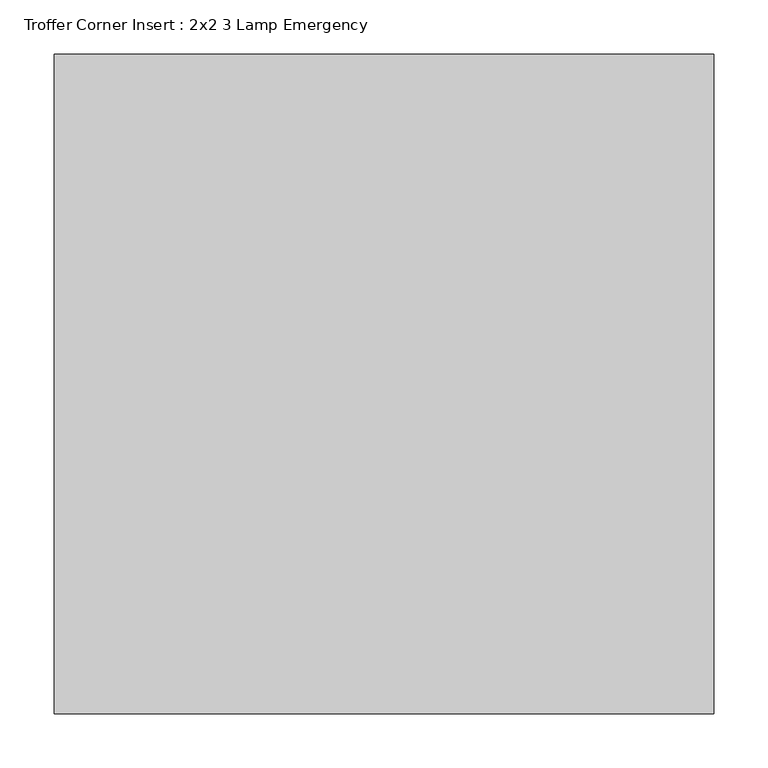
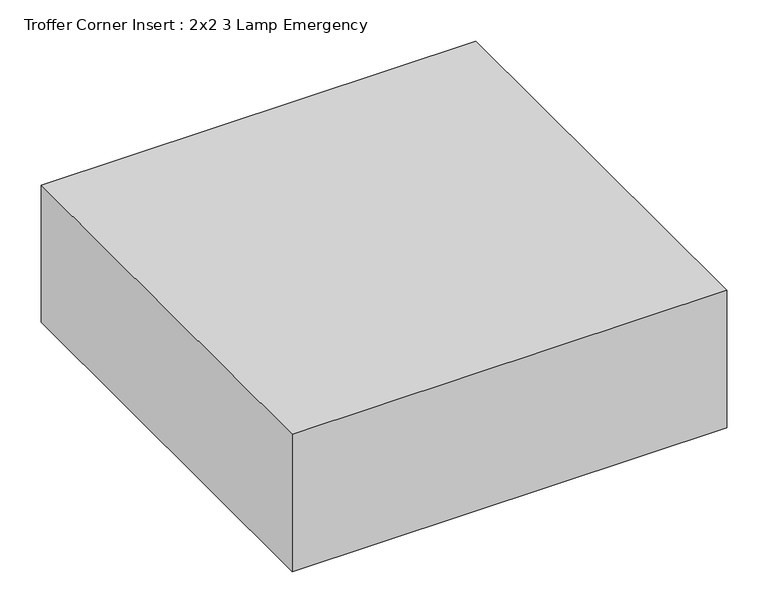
"""IFC4 building model written with IfcOpenShell, lengths in millimetres: light fixture geometry, Troffer Corner Insert : 2x2 3 Lamp Emergency."""

from ifc_helpers import new_model, si_unit, frame, origin, place, context, project, spatial, polyline, outline, extrude, source, transform, mapped, element, save


def troffer_corner_insert_2x2_3_lamp_emergency_29e3a813(model_context):
    return source(origin(), model_context, "Body", "SweptSolid", [
        extrude(outline(polyline([(304.8, 304.8), (304.8, -304.8), (-304.8, -304.8), (-304.8, 304.8), (304.8, 304.8)])), frame((0.0, 0.0, 2438.4), z_axis=(0.0, 0.0, 1.0), x_axis=(1.0, 0.0, 0.0)), (0.0, 0.0, 1.0), 203.2),
    ])


if __name__ == "__main__":
    model = new_model("IFC4")
    model_context = context("Model", 3, world=origin())
    ifc_project = project(units=[si_unit("LENGTHUNIT", "METRE", prefix="MILLI")], contexts=[model_context])
    site = spatial("IfcSite", under=ifc_project)
    building = spatial("IfcBuilding", under=site)
    placement = place(None, origin())
    troffer_corner_insert_2x2_3_lamp_emergency_shape = troffer_corner_insert_2x2_3_lamp_emergency_29e3a813(model_context)
    element("IfcLightFixture", 1, ObjectType="Troffer Corner Insert : 2x2 3 Lamp Emergency", at=placement, inside=building, context=model_context, shape_type="MappedRepresentation", body=[
        mapped(troffer_corner_insert_2x2_3_lamp_emergency_shape, transform((0.0, 0.0, 0.0), x_axis=(1.0, 0.0, 0.0), y_axis=(0.0, 1.0, 0.0), z_axis=(0.0, 0.0, 1.0))),
    ])
    save(model, "model.ifc")
